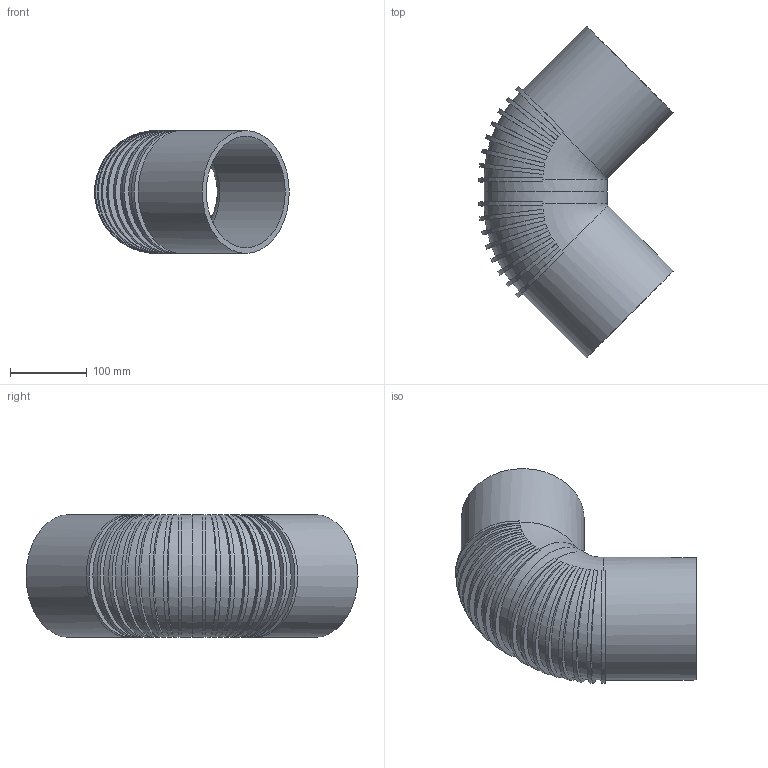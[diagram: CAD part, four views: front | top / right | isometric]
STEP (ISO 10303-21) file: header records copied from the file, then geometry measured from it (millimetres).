
FILE_DESCRIPTION(/* description */ (''),/* implementation_level */ '2;1');
FILE_NAME(/* name */ 'Z:\Geberit\Export\NewStep\315885.stp',/* time_stamp */ '2014-04-01T20:15:16+02:00',/* author */ ('Marco'),/* organization */ (''),/* preprocessor_version */ 'ST-DEVELOPER v15.2',/* originating_system */ 'Autodesk Inventor 2014',/* authorisation */ '');
FILE_SCHEMA (('AUTOMOTIVE_DESIGN { 1 0 10303 214 3 1 1 }'));
Length unit declared in the file: millimetre
Products named in the file (2): 861069; 315885
Bounding box: 253.23 x 432.34 x 160 mm (x, y, z)
Volume: 1516871.3 mm3; surface area: 439396.5 mm2
Topology: 2 solids, 2 shells, 64 faces, 180 edges, 120 vertices
Faces by surface type: plane 36, cylinder 24, torus 4
Full cylindrical faces by diameter (mm): 145.3 x4, 160 x4
Entity records: 1920 total; most frequent: CARTESIAN_POINT 1146, ORIENTED_EDGE 148, DIRECTION 128, EDGE_CURVE 74, AXIS2_PLACEMENT_3D 62, VERTEX_POINT 56, EDGE_LOOP 46, B_SPLINE_CURVE_WITH_KNOTS 44
